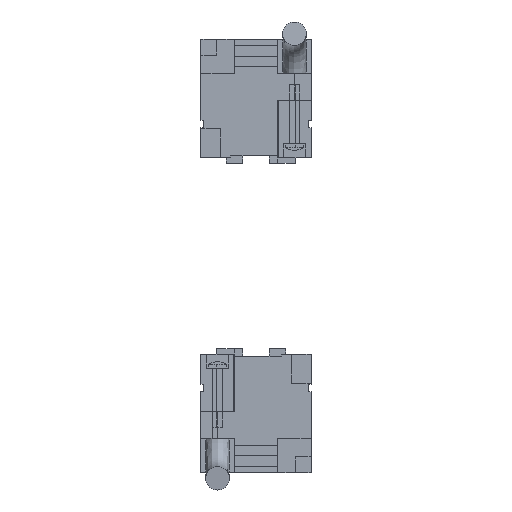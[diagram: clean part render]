
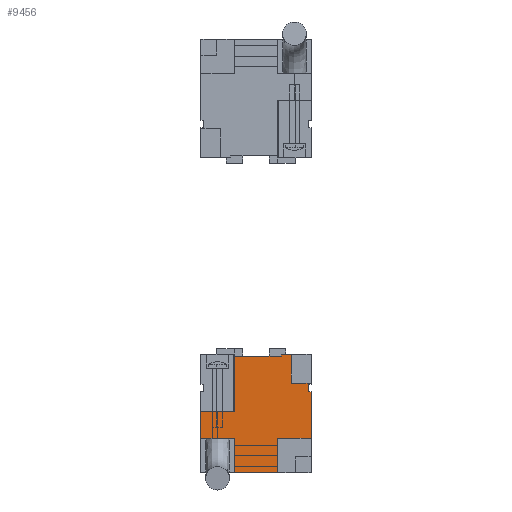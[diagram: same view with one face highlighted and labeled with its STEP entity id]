
A CAD part, front view. The second image highlights one B-rep face of the part: STEP entity #9456.
In plain terms, the highlighted planar face has unit normal (0, -1, 0).
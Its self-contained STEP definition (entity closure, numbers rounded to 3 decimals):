
#9009 = VERTEX_POINT ( 'NONE', #17963 ) ;
#9011 = EDGE_CURVE ( 'NONE', #9012, #9009, #17962, .T. ) ;
#9012 = VERTEX_POINT ( 'NONE', #17958 ) ;
#9060 = VERTEX_POINT ( 'NONE', #18055 ) ;
#9062 = EDGE_CURVE ( 'NONE', #9063, #9060, #18054, .T. ) ;
#9063 = VERTEX_POINT ( 'NONE', #18050 ) ;
#9089 = EDGE_CURVE ( 'NONE', #9060, #9012, #18132, .T. ) ;
#9118 = VERTEX_POINT ( 'NONE', #18148 ) ;
#9120 = EDGE_CURVE ( 'NONE', #9009, #9118, #18146, .T. ) ;
#9163 = EDGE_CURVE ( 'NONE', #9164, #9063, #18265, .T. ) ;
#9164 = VERTEX_POINT ( 'NONE', #18261 ) ;
#9271 = EDGE_CURVE ( 'NONE', #9272, #9273, #18458, .T. ) ;
#9272 = VERTEX_POINT ( 'NONE', #18454 ) ;
#9273 = VERTEX_POINT ( 'NONE', #18453 ) ;
#9319 = VERTEX_POINT ( 'NONE', #18510 ) ;
#9321 = EDGE_CURVE ( 'NONE', #9322, #9319, #18509, .T. ) ;
#9322 = VERTEX_POINT ( 'NONE', #18505 ) ;
#9349 = EDGE_CURVE ( 'NONE', #9350, #9351, #18530, .T. ) ;
#9350 = VERTEX_POINT ( 'NONE', #18592 ) ;
#9351 = VERTEX_POINT ( 'NONE', #18591 ) ;
#9382 = VERTEX_POINT ( 'NONE', #18598 ) ;
#9384 = EDGE_CURVE ( 'NONE', #9385, #9382, #18597, .T. ) ;
#9385 = VERTEX_POINT ( 'NONE', #18593 ) ;
#9406 = VERTEX_POINT ( 'NONE', #18684 ) ;
#9408 = EDGE_CURVE ( 'NONE', #9319, #9406, #18683, .T. ) ;
#9427 = ORIENTED_EDGE ( 'NONE', *, *, #9428, .F. ) ;
#9428 = EDGE_CURVE ( 'NONE', #9429, #9406, #18718, .T. ) ;
#9429 = VERTEX_POINT ( 'NONE', #18714 ) ;
#9430 = ORIENTED_EDGE ( 'NONE', *, *, #9431, .T. ) ;
#9431 = EDGE_CURVE ( 'NONE', #9429, #9164, #18713, .T. ) ;
#9432 = ORIENTED_EDGE ( 'NONE', *, *, #9163, .T. ) ;
#9433 = ORIENTED_EDGE ( 'NONE', *, *, #9062, .T. ) ;
#9434 = ORIENTED_EDGE ( 'NONE', *, *, #9089, .T. ) ;
#9435 = ORIENTED_EDGE ( 'NONE', *, *, #9011, .T. ) ;
#9436 = ORIENTED_EDGE ( 'NONE', *, *, #9120, .T. ) ;
#9437 = ORIENTED_EDGE ( 'NONE', *, *, #9498, .F. ) ;
#9439 = EDGE_CURVE ( 'NONE', #9463, #9382, #18709, .T. ) ;
#9440 = ORIENTED_EDGE ( 'NONE', *, *, #9441, .F. ) ;
#9441 = EDGE_CURVE ( 'NONE', #9273, #9463, #18705, .T. ) ;
#9442 = ORIENTED_EDGE ( 'NONE', *, *, #9271, .F. ) ;
#9443 = ORIENTED_EDGE ( 'NONE', *, *, #9444, .F. ) ;
#9444 = EDGE_CURVE ( 'NONE', #9350, #9272, #18701, .T. ) ;
#9445 = ORIENTED_EDGE ( 'NONE', *, *, #9349, .T. ) ;
#9446 = ORIENTED_EDGE ( 'NONE', *, *, #9447, .F. ) ;
#9447 = EDGE_CURVE ( 'NONE', #9322, #9351, #18697, .T. ) ;
#9448 = ORIENTED_EDGE ( 'NONE', *, *, #9321, .T. ) ;
#9449 = ORIENTED_EDGE ( 'NONE', *, *, #9408, .T. ) ;
#9456 = ADVANCED_FACE ( 'NONE', ( #18748 ), #18747, .T. ) ;
#9457 = EDGE_LOOP ( 'NONE', ( #9458, #9461, #9462, #9440, #9442, #9443, #9445, #9446, #9448, #9449, #9427, #9430, #9432, #9433, #9434, #9435, #9436, #9437 ) ) ;
#9458 = ORIENTED_EDGE ( 'NONE', *, *, #9459, .F. ) ;
#9459 = EDGE_CURVE ( 'NONE', #9385, #9460, #18742, .T. ) ;
#9460 = VERTEX_POINT ( 'NONE', #18738 ) ;
#9461 = ORIENTED_EDGE ( 'NONE', *, *, #9384, .T. ) ;
#9462 = ORIENTED_EDGE ( 'NONE', *, *, #9439, .F. ) ;
#9463 = VERTEX_POINT ( 'NONE', #18737 ) ;
#9498 = EDGE_CURVE ( 'NONE', #9460, #9118, #18752, .T. ) ;
#17958 = CARTESIAN_POINT ( 'NONE',  ( 13.3, -555., -7.5 ) ) ;
#17959 = DIRECTION ( 'NONE',  ( 1., 0., 0. ) ) ;
#17960 = VECTOR ( 'NONE', #17959, 1000. ) ;
#17961 = CARTESIAN_POINT ( 'NONE',  ( 14., -555., -7.5 ) ) ;
#17962 = LINE ( 'NONE', #17961, #17960 ) ;
#17963 = CARTESIAN_POINT ( 'NONE',  ( 14., -555., -7.5 ) ) ;
#18050 = CARTESIAN_POINT ( 'NONE',  ( 14., -555., -9.5 ) ) ;
#18051 = DIRECTION ( 'NONE',  ( -1., 0., 0. ) ) ;
#18052 = VECTOR ( 'NONE', #18051, 1000. ) ;
#18053 = CARTESIAN_POINT ( 'NONE',  ( 14., -555., -9.5 ) ) ;
#18054 = LINE ( 'NONE', #18053, #18052 ) ;
#18055 = CARTESIAN_POINT ( 'NONE',  ( 13.3, -555., -9.5 ) ) ;
#18129 = DIRECTION ( 'NONE',  ( 0., 0., 1. ) ) ;
#18130 = VECTOR ( 'NONE', #18129, 1000. ) ;
#18131 = CARTESIAN_POINT ( 'NONE',  ( 13.3, -555., -7.5 ) ) ;
#18132 = LINE ( 'NONE', #18131, #18130 ) ;
#18143 = DIRECTION ( 'NONE',  ( 0., 0., 1. ) ) ;
#18144 = VECTOR ( 'NONE', #18143, 1000. ) ;
#18145 = CARTESIAN_POINT ( 'NONE',  ( 14., -555., -30. ) ) ;
#18146 = LINE ( 'NONE', #18145, #18144 ) ;
#18148 = CARTESIAN_POINT ( 'NONE',  ( 14., -555., -7.3 ) ) ;
#18261 = CARTESIAN_POINT ( 'NONE',  ( 14., -555., -21.3 ) ) ;
#18262 = DIRECTION ( 'NONE',  ( 0., 0., 1. ) ) ;
#18263 = VECTOR ( 'NONE', #18262, 1000. ) ;
#18264 = CARTESIAN_POINT ( 'NONE',  ( 14., -555., -30. ) ) ;
#18265 = LINE ( 'NONE', #18264, #18263 ) ;
#18453 = CARTESIAN_POINT ( 'NONE',  ( -5.5, -555., -0.45 ) ) ;
#18454 = CARTESIAN_POINT ( 'NONE',  ( -5.5, -555., -14.5 ) ) ;
#18455 = DIRECTION ( 'NONE',  ( 0., 0., 1. ) ) ;
#18456 = VECTOR ( 'NONE', #18455, 1000. ) ;
#18457 = CARTESIAN_POINT ( 'NONE',  ( -5.5, -555., -15. ) ) ;
#18458 = LINE ( 'NONE', #18457, #18456 ) ;
#18505 = CARTESIAN_POINT ( 'NONE',  ( -5.5, -555., -21.3 ) ) ;
#18506 = DIRECTION ( 'NONE',  ( 0., 0., -1. ) ) ;
#18507 = VECTOR ( 'NONE', #18506, 1000. ) ;
#18508 = CARTESIAN_POINT ( 'NONE',  ( -5.5, -555., -21.3 ) ) ;
#18509 = LINE ( 'NONE', #18508, #18507 ) ;
#18510 = CARTESIAN_POINT ( 'NONE',  ( -5.5, -555., -30. ) ) ;
#18527 = DIRECTION ( 'NONE',  ( 0., 0., -1. ) ) ;
#18528 = VECTOR ( 'NONE', #18527, 1000. ) ;
#18529 = CARTESIAN_POINT ( 'NONE',  ( -14., -555., -30. ) ) ;
#18530 = LINE ( 'NONE', #18529, #18528 ) ;
#18591 = CARTESIAN_POINT ( 'NONE',  ( -14., -555., -21.3 ) ) ;
#18592 = CARTESIAN_POINT ( 'NONE',  ( -14., -555., -14.5 ) ) ;
#18593 = CARTESIAN_POINT ( 'NONE',  ( 9., -555., 0. ) ) ;
#18594 = DIRECTION ( 'NONE',  ( -1., 0., 0. ) ) ;
#18595 = VECTOR ( 'NONE', #18594, 1000. ) ;
#18596 = CARTESIAN_POINT ( 'NONE',  ( -14., -555., 0. ) ) ;
#18597 = LINE ( 'NONE', #18596, #18595 ) ;
#18598 = CARTESIAN_POINT ( 'NONE',  ( 6.4, -555., 0. ) ) ;
#18680 = DIRECTION ( 'NONE',  ( 1., 0., 0. ) ) ;
#18681 = VECTOR ( 'NONE', #18680, 1000. ) ;
#18682 = CARTESIAN_POINT ( 'NONE',  ( 14., -555., -30. ) ) ;
#18683 = LINE ( 'NONE', #18682, #18681 ) ;
#18684 = CARTESIAN_POINT ( 'NONE',  ( 5.5, -555., -30. ) ) ;
#18694 = DIRECTION ( 'NONE',  ( -1., 0., 0. ) ) ;
#18695 = VECTOR ( 'NONE', #18694, 1000. ) ;
#18696 = CARTESIAN_POINT ( 'NONE',  ( -5.5, -555., -21.3 ) ) ;
#18697 = LINE ( 'NONE', #18696, #18695 ) ;
#18698 = DIRECTION ( 'NONE',  ( 1., 0., 0. ) ) ;
#18699 = VECTOR ( 'NONE', #18698, 1000. ) ;
#18700 = CARTESIAN_POINT ( 'NONE',  ( -5.5, -555., -14.5 ) ) ;
#18701 = LINE ( 'NONE', #18700, #18699 ) ;
#18702 = DIRECTION ( 'NONE',  ( 1., 0., 0. ) ) ;
#18703 = VECTOR ( 'NONE', #18702, 1000. ) ;
#18704 = CARTESIAN_POINT ( 'NONE',  ( -5.5, -555., -0.45 ) ) ;
#18705 = LINE ( 'NONE', #18704, #18703 ) ;
#18706 = DIRECTION ( 'NONE',  ( 0., 0., 1. ) ) ;
#18707 = VECTOR ( 'NONE', #18706, 1000. ) ;
#18708 = CARTESIAN_POINT ( 'NONE',  ( 6.4, -555., -0.45 ) ) ;
#18709 = LINE ( 'NONE', #18708, #18707 ) ;
#18710 = DIRECTION ( 'NONE',  ( 1., 0., 0. ) ) ;
#18711 = VECTOR ( 'NONE', #18710, 1000. ) ;
#18712 = CARTESIAN_POINT ( 'NONE',  ( 5.5, -555., -21.3 ) ) ;
#18713 = LINE ( 'NONE', #18712, #18711 ) ;
#18714 = CARTESIAN_POINT ( 'NONE',  ( 5.5, -555., -21.3 ) ) ;
#18715 = DIRECTION ( 'NONE',  ( 0., 0., -1. ) ) ;
#18716 = VECTOR ( 'NONE', #18715, 1000. ) ;
#18717 = CARTESIAN_POINT ( 'NONE',  ( 5.5, -555., -21.3 ) ) ;
#18718 = LINE ( 'NONE', #18717, #18716 ) ;
#18737 = CARTESIAN_POINT ( 'NONE',  ( 6.4, -555., -0.45 ) ) ;
#18738 = CARTESIAN_POINT ( 'NONE',  ( 9., -555., -7.3 ) ) ;
#18739 = DIRECTION ( 'NONE',  ( 0., 0., -1. ) ) ;
#18740 = VECTOR ( 'NONE', #18739, 1000. ) ;
#18741 = CARTESIAN_POINT ( 'NONE',  ( 9., -555., 0. ) ) ;
#18742 = LINE ( 'NONE', #18741, #18740 ) ;
#18743 = DIRECTION ( 'NONE',  ( 1., 0., 0. ) ) ;
#18744 = DIRECTION ( 'NONE',  ( 0., -1., 0. ) ) ;
#18745 = CARTESIAN_POINT ( 'NONE',  ( -13., -555., 0. ) ) ;
#18746 = AXIS2_PLACEMENT_3D ( 'NONE', #18745, #18744, #18743 ) ;
#18747 = PLANE ( 'NONE',  #18746 ) ;
#18748 = FACE_OUTER_BOUND ( 'NONE', #9457, .T. ) ;
#18752 = LINE ( 'NONE', #18817, #18816 ) ;
#18815 = DIRECTION ( 'NONE',  ( 1., 0., 0. ) ) ;
#18816 = VECTOR ( 'NONE', #18815, 1000. ) ;
#18817 = CARTESIAN_POINT ( 'NONE',  ( 9., -555., -7.3 ) ) ;
